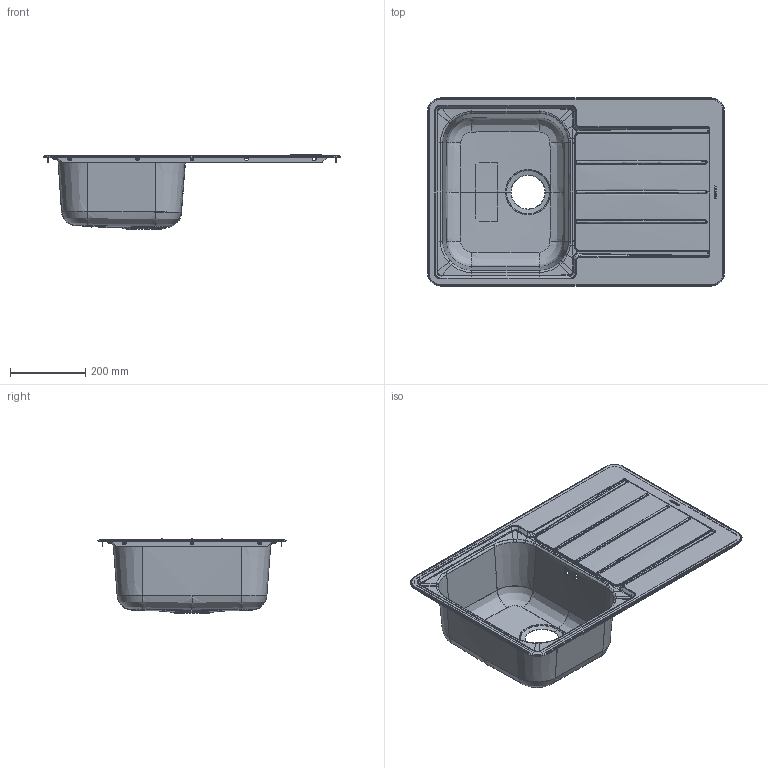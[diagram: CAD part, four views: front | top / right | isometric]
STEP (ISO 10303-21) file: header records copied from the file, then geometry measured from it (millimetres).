
FILE_DESCRIPTION((''),'2;1');
FILE_NAME('1136608_ASM','2022-05-24T14:35:03',('rafaelz'),('Audax d.o.o.'),'CREO PARAMETRIC BY PTC INC, 2020184','CREO PARAMETRIC BY PTC INC, 2020184','');
FILE_SCHEMA(('AP242_MANAGED_MODEL_BASED_3D_ENGINEERING_MIM_LF { 1 0 10303 442 1 1 4 }'));
Length unit declared in the file: millimetre
Products named in the file (5): T10_1143951_AF1; 1018622_AF1; 1143951_AF0_ASM; 1110455_AF0; 1136608_ASM
Assembly tree (4 placements, depth 3):
  1136608_ASM
    1143951_AF0_ASM
      T10_1143951_AF1
      1018622_AF1
    1110455_AF0
Bounding box: 789.98 x 499.98 x 198.21 mm (x, y, z)
Volume: 560109.6 mm3; surface area: 1404979.7 mm2
Topology: 3 solids, 3 shells, 1226 faces, 2901 edges, 1757 vertices
Faces by surface type: bspline 470, cylinder 245, torus 188, plane 181, cone 142
Entity records: 67123 total; most frequent: CARTESIAN_POINT 40349, ORIENTED_EDGE 5740, DIRECTION 4780, EDGE_CURVE 2870, AXIS2_PLACEMENT_3D 1944, VERTEX_POINT 1665, EDGE_LOOP 1287, FACE_OUTER_BOUND 1226
